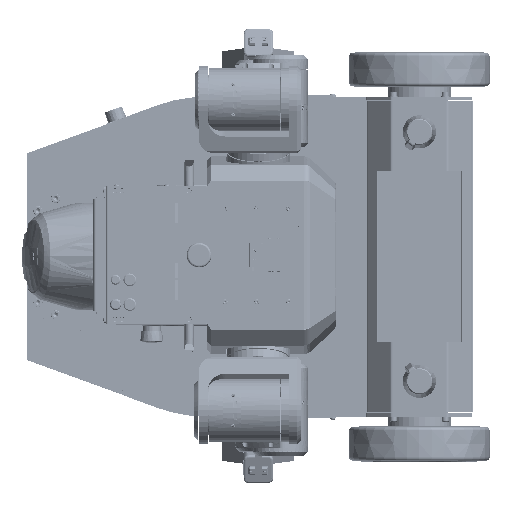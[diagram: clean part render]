
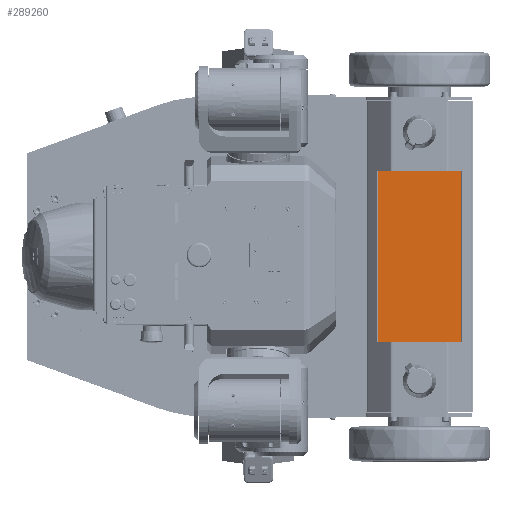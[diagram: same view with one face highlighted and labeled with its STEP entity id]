
A CAD part, top view. The second image highlights one B-rep face of the part: STEP entity #289260.
In plain terms, the highlighted planar face has unit normal (0, 0, 1).
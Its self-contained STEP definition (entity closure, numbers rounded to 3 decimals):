
#12813=PLANE('',#309434);
#23712=FACE_OUTER_BOUND('',#40535,.T.);
#40535=EDGE_LOOP('',(#195511,#195512,#195513,#195514));
#57738=LINE('',#454074,#80331);
#57739=LINE('',#454076,#80332);
#57754=LINE('',#454117,#80347);
#59714=LINE('',#467339,#82307);
#80331=VECTOR('',#337506,1.);
#80332=VECTOR('',#337509,1.);
#80347=VECTOR('',#337544,1.);
#82307=VECTOR('',#344570,1.);
#116169=VERTEX_POINT('',#454038);
#116174=VERTEX_POINT('',#454048);
#116177=VERTEX_POINT('',#454055);
#116178=VERTEX_POINT('',#454058);
#144612=EDGE_CURVE('',#116169,#116177,#57738,.T.);
#144613=EDGE_CURVE('',#116174,#116178,#57739,.T.);
#144634=EDGE_CURVE('',#116178,#116177,#57754,.T.);
#148279=EDGE_CURVE('',#116169,#116174,#59714,.T.);
#195511=ORIENTED_EDGE('',*,*,#144634,.F.);
#195512=ORIENTED_EDGE('',*,*,#144613,.F.);
#195513=ORIENTED_EDGE('',*,*,#148279,.F.);
#195514=ORIENTED_EDGE('',*,*,#144612,.T.);
#289260=ADVANCED_FACE('',(#23712),#12813,.F.);
#309434=AXIS2_PLACEMENT_3D('',#467880,#344708,#344709);
#337506=DIRECTION('',(0.,1.,0.));
#337509=DIRECTION('',(0.,1.,0.));
#337544=DIRECTION('',(1.,0.,0.));
#344570=DIRECTION('',(-1.,0.,0.));
#344708=DIRECTION('center_axis',(0.,0.,
-1.));
#344709=DIRECTION('ref_axis',(0.,-1.,0.));
#454038=CARTESIAN_POINT('',(534.149,-120.5,-89.349));
#454048=CARTESIAN_POINT('',(415.851,-120.5,-89.349));
#454055=CARTESIAN_POINT('',(534.148,120.5,-89.349));
#454058=CARTESIAN_POINT('',(415.852,120.5,-89.349));
#454074=CARTESIAN_POINT('',(534.149,-60.25,-89.349));
#454076=CARTESIAN_POINT('',(415.851,-60.25,-89.349));
#454117=CARTESIAN_POINT('',(474.999,120.5,-89.349));
#467339=CARTESIAN_POINT('',(474.999,-120.5,-89.349));
#467880=CARTESIAN_POINT('Origin',(474.999,0.,
-89.349));
